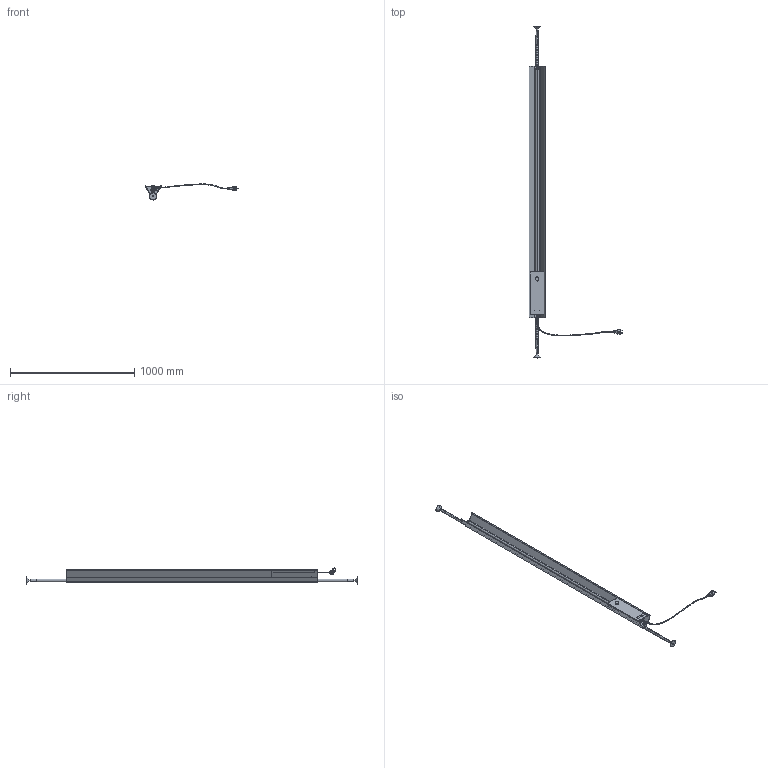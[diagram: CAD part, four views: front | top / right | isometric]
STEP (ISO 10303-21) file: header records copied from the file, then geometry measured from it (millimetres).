
FILE_DESCRIPTION (( 'STEP AP203' ), '1' );
FILE_NAME ('LT8 h.1 2030.STEP', '2024-09-20T10:38:11', ( '' ), ( '' ), 'SwSTEP 2.0', 'SolidWorks 2024', '' );
FILE_SCHEMA (( 'CONFIG_CONTROL_DESIGN' ));
Length unit declared in the file: millimetre
Products named in the file (18): Elesa M8 Indexing plungers GN 717-5-M8-D-ST; Presa IEC Everel C14; ATC-T13-F101-R02 - Sito; Base GN 717-5-M8-D-ST(0); ATC-T13-F118-R00; ATC-T13-F126-R00; ATC-T13-F107-R00_IN POSIZIONE; Viti a Testa Bombata e Cava Esagonale ISO-7380_VITE M3X10 TBCE ISO-7380 ; LT8 h.1 2030; ATC-T13-F105-R01 - Sito; ATC-T13-F128-R00 - Sito; Cablaggio DE 125-250VAC CL.I IEC_Default<A macchina>; ATC-T13-F102-R01 - Sito; ATC-T13-F109-R02; Rondelle Piatte ISO-7089_RONDELLA M3 PIANA; ATC-T13-F127-R01; Head GN 717-5-M8-D-ST(0); ATC-T13-F108-R00
Assembly tree (23 placements, depth 3):
  LT8 h.1 2030
    Rondelle Piatte ISO-7089_RONDELLA M3 PIANA  x2
    Viti a Testa Bombata e Cava Esagonale ISO-7380_VITE M3X10 TBCE ISO-7380   x2
    Elesa M8 Indexing plungers GN 717-5-M8-D-ST  x2
      Head GN 717-5-M8-D-ST(0)
      Base GN 717-5-M8-D-ST(0)
    Presa IEC Everel C14
    ATC-T13-F101-R02 - Sito
    ATC-T13-F107-R00_IN POSIZIONE
    ATC-T13-F126-R00  x2
    ATC-T13-F102-R01 - Sito
    ATC-T13-F108-R00
    ATC-T13-F105-R01 - Sito
    ATC-T13-F109-R02  x2
    ATC-T13-F118-R00
    ATC-T13-F127-R01
    Cablaggio DE 125-250VAC CL.I IEC_Default<A macchina>
    ATC-T13-F128-R00 - Sito  x2
Bounding box: 754.83 x 2676 x 129.18 mm (x, y, z)
Volume: 3769067.4 mm3; surface area: 1611508.9 mm2
Topology: 35 solids, 39 shells, 1257 faces, 3141 edges, 1912 vertices
Faces by surface type: cylinder 441, plane 438, bspline 199, cone 128, torus 51
Entity records: 45646 total; most frequent: CARTESIAN_POINT 19422, ORIENTED_EDGE 5248, DIRECTION 4756, EDGE_CURVE 2626, AXIS2_PLACEMENT_3D 1761, VERTEX_POINT 1632, LINE 1234, VECTOR 1234
